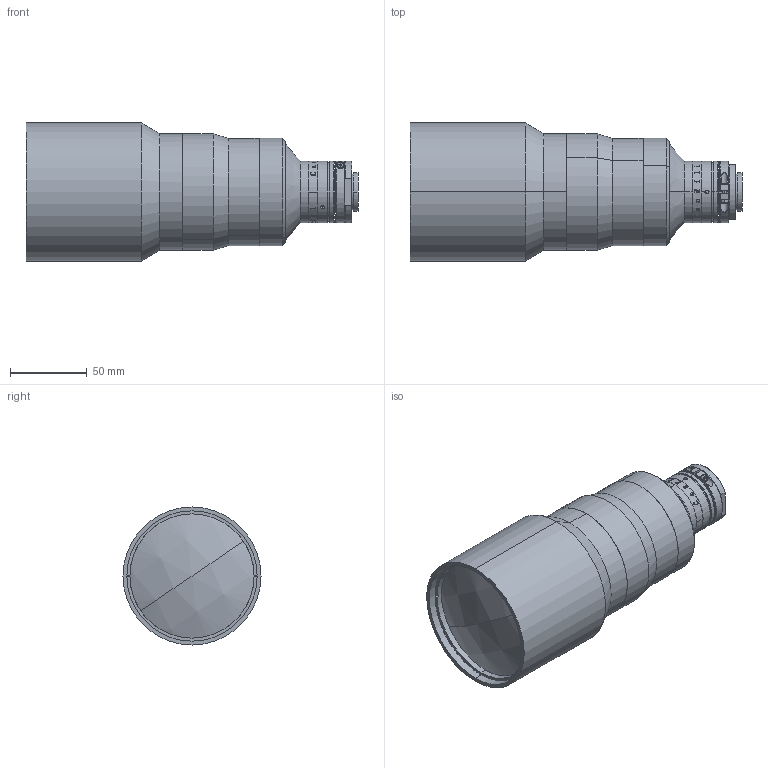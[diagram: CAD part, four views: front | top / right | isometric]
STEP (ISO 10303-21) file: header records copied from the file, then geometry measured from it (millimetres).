
FILE_DESCRIPTION (( 'STEP AP203' ), '1' );
FILE_NAME ('XF-PTL06511-C-(HD).STEP', '2019-02-15T02:56:00', ( 'zhanghp' ), ( '' ), 'SwSTEP 2.0', 'SolidWorks 2014', '' );
FILE_SCHEMA (( 'CONFIG_CONTROL_DESIGN' ));
Length unit declared in the file: millimetre
Products named in the file (1): XF-PTL06511-C-(HD)
Bounding box: 216.49 x 90 x 90 mm (x, y, z)
Surface area: 72083.1 mm2 (no closed solid volume)
Topology: 0 solids, 32 shells, 148 faces, 897 edges, 788 vertices
Faces by surface type: cylinder 72, plane 46, cone 14, torus 10, sphere 4, bspline 2
Entity records: 15041 total; most frequent: CARTESIAN_POINT 8556, DIRECTION 1223, ORIENTED_EDGE 1132, EDGE_CURVE 895, VERTEX_POINT 788, AXIS2_PLACEMENT_3D 477, CIRCLE 330, B_SPLINE_CURVE_WITH_KNOTS 296
